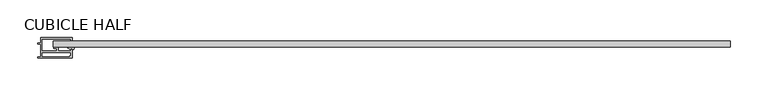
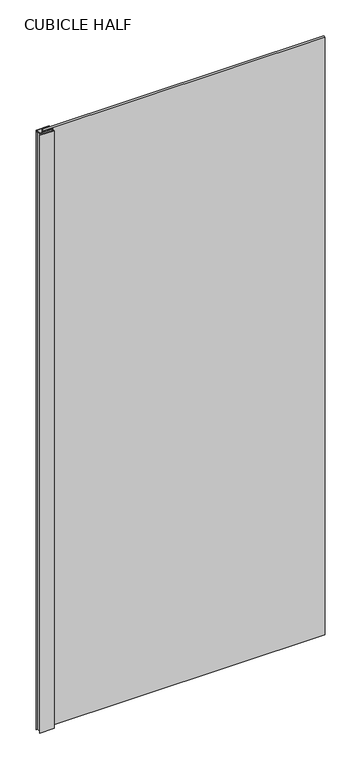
"""IFC4 building model written with IfcOpenShell, lengths in millimetres: flow terminal geometry, Sanitary_Showers_Rare_OPEN-F00 : CUBICLE HALF."""

from ifc_helpers import new_model, si_unit, origin, origin_with_axes, place, context, project, spatial, polyline, outline, extrude, source, transform, mapped, element, save


def cubicle_half_ac79c43e(model_context):
    return source(origin(), model_context, "Body", "SweptSolid", [
        extrude(outline(polyline([(19.0808586, 21.5235549), (911.4185457, 21.5235549), (911.4185457, 13.5141238), (19.0808586, 13.5141238), (19.0808586, 21.5235549)])), origin_with_axes(), (0.0, 0.0, 1.0), 2000.0),
        extrude(outline(polyline([(44.0000063, 21.9500032), (42.5000061, 21.9500032), (42.5000061, 24.2000035), (4.0000007, 24.2000035), (4.0000007, 0.5000002), (41.0000059, 0.5000002), (41.0000059, 1.5879759), (42.5000061, 1.5879759), (42.5000061, 6.400001), (4.5000008, 6.400001), (4.5000008, 7.9000012), (24.0000035, 7.9000012), (24.0000035, 11.2800017), (19.7500029, 11.2800017), (19.7500029, 12.7800019), (25.5000037, 12.7800019), (25.5000037, 7.9000012), (42.2500061, 7.9000012), (42.2500061, 9.9000015), (44.0000063, 9.9000015), (44.0000063, -1.0), (-1.0, -1.0), (-1.0, 0.5000002), (2.5000005, 0.5000002), (2.5000005, 17.5000026), (-1.0, 17.5000026), (-1.0, 19.0000028), (2.5000005, 19.0000028), (2.5000005, 25.7000037), (44.0000063, 25.7000037), (44.0000063, 21.9500032)])), origin_with_axes(), (0.0, 0.0, 1.0), 2000.00028),
        extrude(outline(polyline([(38.1711226, 13.5141259), (47.5081888, 13.5141259), (47.1486879, 11.9268391), (46.0462267, 10.3755478), (44.2000063, 9.3591315), (44.2000063, 11.2141255), (42.5500061, 11.2141255), (42.5500061, 10.3072982), (41.496184, 10.3072982), (38.1711226, 12.2577585), (38.1711226, 13.5141259)])), origin_with_axes(), (0.0, 0.0, 1.0), 2000.00028),
    ])


if __name__ == "__main__":
    model = new_model("IFC4")
    model_context = context("Model", 3, world=origin())
    ifc_project = project(units=[si_unit("LENGTHUNIT", "METRE", prefix="MILLI")], contexts=[model_context])
    site = spatial("IfcSite", under=ifc_project)
    building = spatial("IfcBuilding", under=site)
    placement = place(None, origin())
    cubicle_half_shape = cubicle_half_ac79c43e(model_context)
    element("IfcFlowTerminal", 1, ObjectType="Sanitary_Showers_Rare_OPEN-F00 : CUBICLE HALF", at=placement, inside=building, context=model_context, shape_type="MappedRepresentation", body=[
        mapped(cubicle_half_shape, transform((0.0, 0.0, 0.0), x_axis=(1.0, 0.0, 0.0), y_axis=(0.0, 1.0, 0.0), z_axis=(0.0, 0.0, 1.0))),
    ])
    save(model, "model.ifc")
